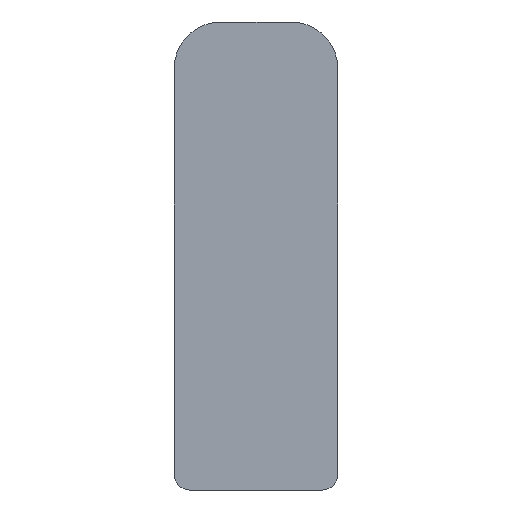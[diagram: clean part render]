
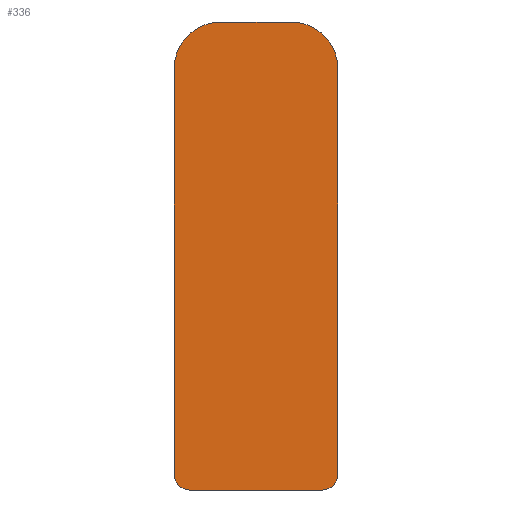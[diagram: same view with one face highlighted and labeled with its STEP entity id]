
A CAD part, left-side view. The second image highlights one B-rep face of the part: STEP entity #336.
In plain terms, the highlighted planar face has unit normal (-1, 0, 0).
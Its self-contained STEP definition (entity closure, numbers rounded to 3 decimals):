
#1 = CIRCLE ( 'NONE', #107, 1. ) ;
#8 = VECTOR ( 'NONE', #307, 1000. ) ;
#9 = LINE ( 'NONE', #308, #8 ) ;
#13 = CIRCLE ( 'NONE', #109, 3. ) ;
#20 = VECTOR ( 'NONE', #327, 1000. ) ;
#21 = LINE ( 'NONE', #328, #20 ) ;
#27 = CIRCLE ( 'NONE', #111, 3. ) ;
#58 = EDGE_LOOP ( 'NONE', ( #71, #73, #74, #72, #75, #68, #79, #76 ) ) ;
#68 = ORIENTED_EDGE ( 'NONE', *, *, #131, .T. ) ;
#71 = ORIENTED_EDGE ( 'NONE', *, *, #115, .T. ) ;
#72 = ORIENTED_EDGE ( 'NONE', *, *, #125, .T. ) ;
#73 = ORIENTED_EDGE ( 'NONE', *, *, #119, .T. ) ;
#74 = ORIENTED_EDGE ( 'NONE', *, *, #122, .T. ) ;
#75 = ORIENTED_EDGE ( 'NONE', *, *, #128, .T. ) ;
#76 = ORIENTED_EDGE ( 'NONE', *, *, #136, .T. ) ;
#79 = ORIENTED_EDGE ( 'NONE', *, *, #134, .T. ) ;
#90 = AXIS2_PLACEMENT_3D ( 'NONE', #229, #226, #225 ) ;
#105 = AXIS2_PLACEMENT_3D ( 'NONE', #279, #278, #277 ) ;
#107 = AXIS2_PLACEMENT_3D ( 'NONE', #298, #297, #296 ) ;
#109 = AXIS2_PLACEMENT_3D ( 'NONE', #319, #317, #316 ) ;
#111 = AXIS2_PLACEMENT_3D ( 'NONE', #234, #227, #222 ) ;
#115 = EDGE_CURVE ( 'NONE', #315, #326, #27, .T. ) ;
#119 = EDGE_CURVE ( 'NONE', #326, #309, #21, .T. ) ;
#122 = EDGE_CURVE ( 'NONE', #309, #299, #13, .T. ) ;
#125 = EDGE_CURVE ( 'NONE', #299, #289, #9, .T. ) ;
#128 = EDGE_CURVE ( 'NONE', #289, #318, #1, .T. ) ;
#131 = EDGE_CURVE ( 'NONE', #318, #330, #182, .T. ) ;
#134 = EDGE_CURVE ( 'NONE', #330, #292, #171, .T. ) ;
#136 = EDGE_CURVE ( 'NONE', #292, #315, #167, .T. ) ;
#161 = FACE_OUTER_BOUND ( 'NONE', #58, .T. ) ;
#164 = VECTOR ( 'NONE', #271, 1000. ) ;
#167 = LINE ( 'NONE', #272, #164 ) ;
#171 = CIRCLE ( 'NONE', #105, 1. ) ;
#181 = VECTOR ( 'NONE', #287, 1000. ) ;
#182 = LINE ( 'NONE', #288, #181 ) ;
#222 = DIRECTION ( 'NONE',  ( 0., 0., 1. ) ) ;
#225 = DIRECTION ( 'NONE',  ( 0., 0., 1. ) ) ;
#226 = DIRECTION ( 'NONE',  ( -1., 0., 0. ) ) ;
#227 = DIRECTION ( 'NONE',  ( -1., 0., 0. ) ) ;
#229 = CARTESIAN_POINT ( 'NONE',  ( -328.25, -2.25, 27. ) ) ;
#230 = PLANE ( 'NONE',  #90 ) ;
#234 = CARTESIAN_POINT ( 'NONE',  ( -328.25, -2.25, 27. ) ) ;
#246 = CARTESIAN_POINT ( 'NONE',  ( -328.25, -4.25, 0. ) ) ;
#248 = CARTESIAN_POINT ( 'NONE',  ( -328.25, -2.25, 30. ) ) ;
#251 = CARTESIAN_POINT ( 'NONE',  ( -328.25, 4.25, 0. ) ) ;
#252 = CARTESIAN_POINT ( 'NONE',  ( -328.25, -5.25, 27. ) ) ;
#254 = CARTESIAN_POINT ( 'NONE',  ( -328.25, 2.25, 30. ) ) ;
#257 = CARTESIAN_POINT ( 'NONE',  ( -328.25, 5.25, 27. ) ) ;
#259 = CARTESIAN_POINT ( 'NONE',  ( -328.25, -5.25, 1. ) ) ;
#260 = CARTESIAN_POINT ( 'NONE',  ( -328.25, 5.25, 1. ) ) ;
#271 = DIRECTION ( 'NONE',  ( 0., 0., 1. ) ) ;
#272 = CARTESIAN_POINT ( 'NONE',  ( -328.25, -5.25, 1. ) ) ;
#277 = DIRECTION ( 'NONE',  ( 0., 0., -1. ) ) ;
#278 = DIRECTION ( 'NONE',  ( -1., 0., 0. ) ) ;
#279 = CARTESIAN_POINT ( 'NONE',  ( -328.25, -4.25, 1. ) ) ;
#287 = DIRECTION ( 'NONE',  ( 0., -1., 0. ) ) ;
#288 = CARTESIAN_POINT ( 'NONE',  ( -328.25, -4.25, 0. ) ) ;
#289 = VERTEX_POINT ( 'NONE', #260 ) ;
#292 = VERTEX_POINT ( 'NONE', #259 ) ;
#296 = DIRECTION ( 'NONE',  ( 0., 0., -1. ) ) ;
#297 = DIRECTION ( 'NONE',  ( -1., 0., 0. ) ) ;
#298 = CARTESIAN_POINT ( 'NONE',  ( -328.25, 4.25, 1. ) ) ;
#299 = VERTEX_POINT ( 'NONE', #257 ) ;
#307 = DIRECTION ( 'NONE',  ( 0., 0., -1. ) ) ;
#308 = CARTESIAN_POINT ( 'NONE',  ( -328.25, 5.25, 1. ) ) ;
#309 = VERTEX_POINT ( 'NONE', #254 ) ;
#315 = VERTEX_POINT ( 'NONE', #252 ) ;
#316 = DIRECTION ( 'NONE',  ( 0., 0., -1. ) ) ;
#317 = DIRECTION ( 'NONE',  ( -1., 0., 0. ) ) ;
#318 = VERTEX_POINT ( 'NONE', #251 ) ;
#319 = CARTESIAN_POINT ( 'NONE',  ( -328.25, 2.25, 27. ) ) ;
#326 = VERTEX_POINT ( 'NONE', #248 ) ;
#327 = DIRECTION ( 'NONE',  ( 0., 1., 0. ) ) ;
#328 = CARTESIAN_POINT ( 'NONE',  ( -328.25, -2.25, 30. ) ) ;
#330 = VERTEX_POINT ( 'NONE', #246 ) ;
#336 = ADVANCED_FACE ( 'NONE', ( #161 ), #230, .T. ) ;
